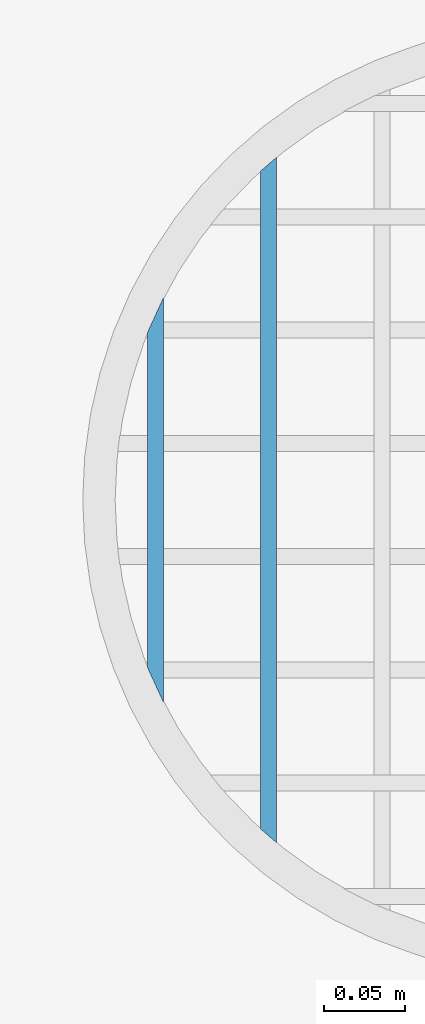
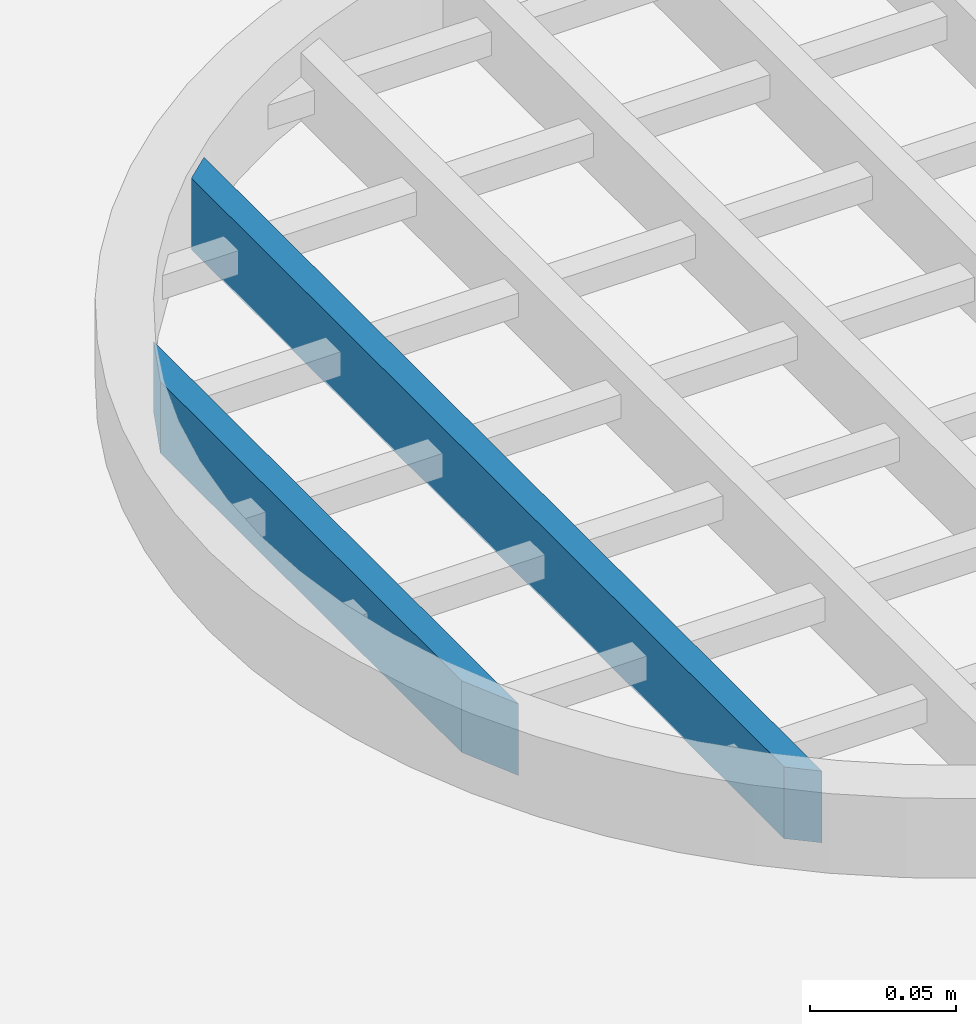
# One storey, part 36 of 133: 2 members, 1 element without a shape of its own.
"""IFC2X3 building model written with IfcOpenShell, lengths in centimetres."""

from ifc_helpers import new_model, entity, si_unit, converted_unit, direction, frame, origin, origin_with_axes, place, context, subcontext, project, spatial, faceted_brep, material, type_object, element, aggregate, save


model = new_model("IFC2X3")

# Units and contexts
model_context = context("Model", 3, precision=0.0001, world=origin(), true_north=direction((0.225632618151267, 0.974212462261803, 0.0)))
body_context = subcontext(model_context, "Body", "Model", "MODEL_VIEW")
ifc_project = project(units=[si_unit("LENGTHUNIT", "METRE", prefix="CENTI"), si_unit("AREAUNIT", "SQUARE_METRE", prefix="CENTI"), si_unit("VOLUMEUNIT", "CUBIC_METRE", prefix="CENTI"), converted_unit("PLANEANGLEUNIT", "DEGREE", entity("IfcRatioMeasure", 0.0174532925), si_unit("PLANEANGLEUNIT", "RADIAN"), dimensions=[0, 0, 0, 0, 0, 0, 0])], contexts=[model_context])

# Site, building, storey
site_placement = place(None, origin_with_axes())
site = spatial("IfcSite", under=ifc_project, at=site_placement, Name="Default Site", CompositionType="ELEMENT")
building_placement = place(site_placement, origin_with_axes())
building = spatial("IfcBuilding", under=site, at=building_placement, Name="Default Building", CompositionType="ELEMENT")
storey_placement = place(building_placement, frame((0.0, 0.0, -291.400371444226), z_axis=(0.0, 0.0, 1.0), x_axis=(1.0, 0.0, 0.0)))
storey = spatial("IfcBuildingStorey", under=building, at=storey_placement, Name="Rez-de-Jardin", CompositionType="ELEMENT", Elevation=-291.400371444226)

# Assembly, members
building_element_proxy_type = type_object("IfcBuildingElementProxyType", Name="Type Object", PredefinedType="NOTDEFINED")
assembly_placement = place(storey_placement, frame((-1009.35653205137, -1334.68058377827, 107.795800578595), z_axis=(0.0, -1.0, -9.43689570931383e-16), x_axis=(1.0, 0.0, 0.0)))
assembly = element("IfcElementAssembly", 1, at=assembly_placement, inside=storey, type_object=building_element_proxy_type, Name="Panneau 294967", ObjectType="Precast panel", PredefinedType="USERDEFINED")
ifc_material = material(Name="Acier")
member_1_placement = place(assembly_placement, frame((4.98848780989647, 1.49999996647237, 42.7045464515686), z_axis=(-0.909354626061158, 5.26300108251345e-23, 0.416021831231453), x_axis=(0.416021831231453, 8.58148476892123e-16, 0.909354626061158)))
member_1 = element("IfcMember", 2, at=member_1_placement, material=ifc_material, Name="4294966859", context=body_context, shape_type="Brep", body=[
    faceted_brep([(-5.55111512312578e-14, 9.0205620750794e-15, -1.11022302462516e-13), (-2.40371950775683, 1.11022302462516e-14, -1.47419569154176e-07), (-2.40371950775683, -2.99999993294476, -1.47419569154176e-07), (-5.55111512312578e-14, -2.99999993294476, -1.11022302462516e-13), (-22.7592700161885, -2.99999993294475, -10.4121680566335), (-21.187592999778, -2.99999993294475, -8.5934582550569), (-21.187592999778, 2.70616865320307e-14, -8.5934582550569), (-22.7592700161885, 2.84494650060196e-14, -10.4121680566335), (-2.40371950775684, -2.99999993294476, -1.11022302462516e-13), (-21.1875926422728, -2.99999993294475, -8.59345856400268), (-2.40371950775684, 1.11022302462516e-14, -1.11968789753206e-13), (-21.1875926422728, 2.70616862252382e-14, -8.59345856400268), (-2.40371950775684, 1.11022302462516e-14, -1.11022302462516e-13), (-5.55111512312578e-14, 9.0394820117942e-15, -1.11022302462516e-13), (-22.7592700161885, 2.85703154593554e-14, -10.4121680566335), (-21.1875926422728, 2.72215828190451e-14, -8.59345856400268), (-5.59567211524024e-14, -2.99999993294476, -1.10048360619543e-13)], [[[0, 1, 2, 3]], [[4, 5, 6, 7]], [[3, 8, 9, 4]], [[8, 10, 11, 9]], [[12, 13, 14, 15]], [[0, 16, 4, 7]]]),
])
member_2_placement = place(assembly_placement, frame((11.9884878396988, 1.49999996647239, 51.382452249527), z_axis=(-0.654373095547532, 3.52893669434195e-22, 0.756171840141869), x_axis=(0.756171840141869, 6.17525065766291e-16, 0.654373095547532)))
member_2 = element("IfcMember", 3, at=member_2_placement, material=ifc_material, Name="4294966858", context=body_context, shape_type="Brep", body=[
    faceted_brep([(-4.44089209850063e-14, -3.81639164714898e-15, 6.66133814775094e-14), (-1.32245045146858, -2.94902990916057e-15, -7.55733454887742e-07), (-1.32245045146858, -2.99999993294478, -7.55733454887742e-07), (-4.44089209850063e-14, -2.99999993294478, 6.66133814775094e-14), (-27.7347840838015, -2.99999993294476, -32.0493963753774), (-27.9246763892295, -2.99999993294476, -30.7406493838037), (-27.9246763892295, 1.33573709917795e-14, -30.7406493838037), (-27.7347840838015, 1.33573707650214e-14, -32.0493963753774), (-1.32245045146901, -2.99999993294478, 6.66133814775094e-14), (-27.9246760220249, -2.99999993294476, -30.7406493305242), (-1.32245045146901, -2.94902990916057e-15, 6.57052563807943e-14), (-27.9246760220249, 1.33573707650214e-14, -30.7406493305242), (-1.32245045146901, -2.94902990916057e-15, 6.66133814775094e-14), (-4.44089209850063e-14, -3.76567621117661e-15, 6.66133814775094e-14), (-27.7347840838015, 1.33612594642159e-14, -32.0493963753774), (-27.9246760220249, 1.34785220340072e-14, -30.7406493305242), (-4.54682152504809e-14, -2.99999993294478, 6.7530069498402e-14)], [[[0, 1, 2, 3]], [[4, 5, 6, 7]], [[3, 8, 9, 4]], [[8, 10, 11, 9]], [[12, 13, 14, 15]], [[0, 16, 4, 7]]]),
])
aggregate(assembly, [member_1, member_2])

save(model, "model.ifc")
